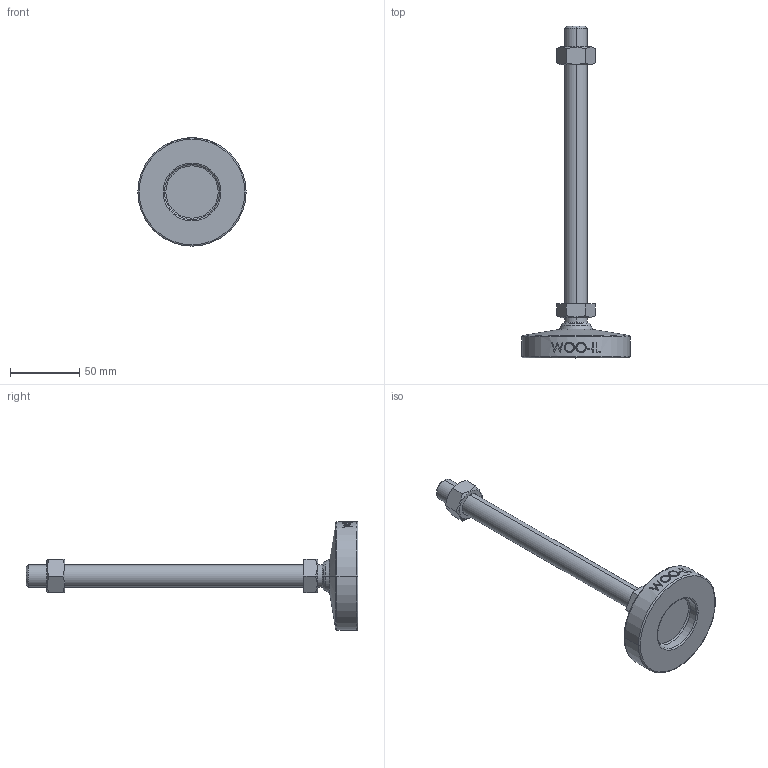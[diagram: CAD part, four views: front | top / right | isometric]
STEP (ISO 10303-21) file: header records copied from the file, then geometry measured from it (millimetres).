
FILE_DESCRIPTION (( 'STEP AP214' ), '1' );
FILE_NAME ('MFN78-M16-200.step', '2021-01-19T06:29:58', ( '' ), ( '' ), 'SwSTEP 2.0', 'SolidWorks 2019', '' );
FILE_SCHEMA (( 'AUTOMOTIVE_DESIGN' ));
Length unit declared in the file: millimetre
Products named in the file (2): MFN78-M16-200
Bounding box: 78 x 239 x 78 mm (x, y, z)
Volume: 127900.3 mm3; surface area: 28252.4 mm2
Topology: 2 solids, 2 shells, 109 faces, 253 edges, 160 vertices
Faces by surface type: plane 47, cone 18, cylinder 18, bspline 16, torus 8, sphere 2
Entity records: 4621 total; most frequent: CARTESIAN_POINT 2196, ORIENTED_EDGE 506, DIRECTION 461, EDGE_CURVE 253, AXIS2_PLACEMENT_3D 179, VERTEX_POINT 160, EDGE_LOOP 123, ADVANCED_FACE 109
